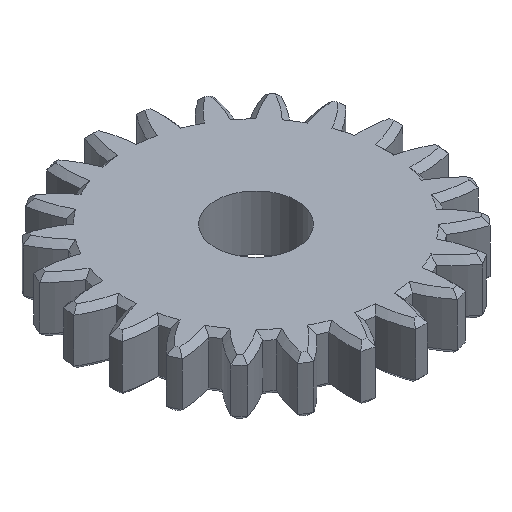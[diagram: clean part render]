
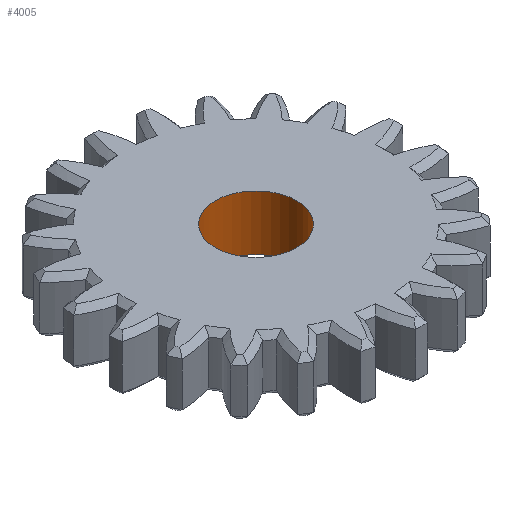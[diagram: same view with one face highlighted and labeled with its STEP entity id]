
A CAD part, isometric view. The second image highlights one B-rep face of the part: STEP entity #4005.
In plain terms, the highlighted cylindrical face has radius 2.95 mm (diameter 5.9 mm), a full revolution.
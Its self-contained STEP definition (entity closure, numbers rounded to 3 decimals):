
#107=LINE('',#7751,#196);
#196=VECTOR('',#5982,2.95);
#285=CYLINDRICAL_SURFACE('',#4649,2.95);
#552=FACE_OUTER_BOUND('',#821,.T.);
#821=EDGE_LOOP('',(#3559,#3560,#3561,#3562));
#1218=CIRCLE('',#4382,2.95);
#1351=CIRCLE('',#4637,2.95);
#1573=VERTEX_POINT('',#6955);
#1705=VERTEX_POINT('',#7727);
#2059=EDGE_CURVE('',#1573,#1573,#1218,.T.);
#2313=EDGE_CURVE('',#1705,#1705,#1351,.T.);
#2324=EDGE_CURVE('',#1573,#1705,#107,.T.);
#3559=ORIENTED_EDGE('',*,*,#2059,.F.);
#3560=ORIENTED_EDGE('',*,*,#2324,.T.);
#3561=ORIENTED_EDGE('',*,*,#2313,.F.);
#3562=ORIENTED_EDGE('',*,*,#2324,.F.);
#4005=ADVANCED_FACE('',(#552),#285,.F.);
#4382=AXIS2_PLACEMENT_3D('',#6956,#5403,#5404);
#4637=AXIS2_PLACEMENT_3D('',#7728,#5946,#5947);
#4649=AXIS2_PLACEMENT_3D('',#7750,#5980,#5981);
#5403=DIRECTION('center_axis',(0.,0.,1.));
#5404=DIRECTION('ref_axis',(-1.,0.,0.));
#5946=DIRECTION('center_axis',(0.,0.,-1.));
#5947=DIRECTION('ref_axis',(-1.,0.,0.));
#5980=DIRECTION('center_axis',(0.,0.,1.));
#5981=DIRECTION('ref_axis',(-1.,0.,0.));
#5982=DIRECTION('',(0.,0.,1.));
#6955=CARTESIAN_POINT('',(2.95,0.,0.));
#6956=CARTESIAN_POINT('Origin',(0.,0.,0.));
#7727=CARTESIAN_POINT('',(2.95,0.,4.));
#7728=CARTESIAN_POINT('Origin',(0.,0.,4.));
#7750=CARTESIAN_POINT('Origin',(0.,0.,0.));
#7751=CARTESIAN_POINT('',(2.95,0.,0.));
